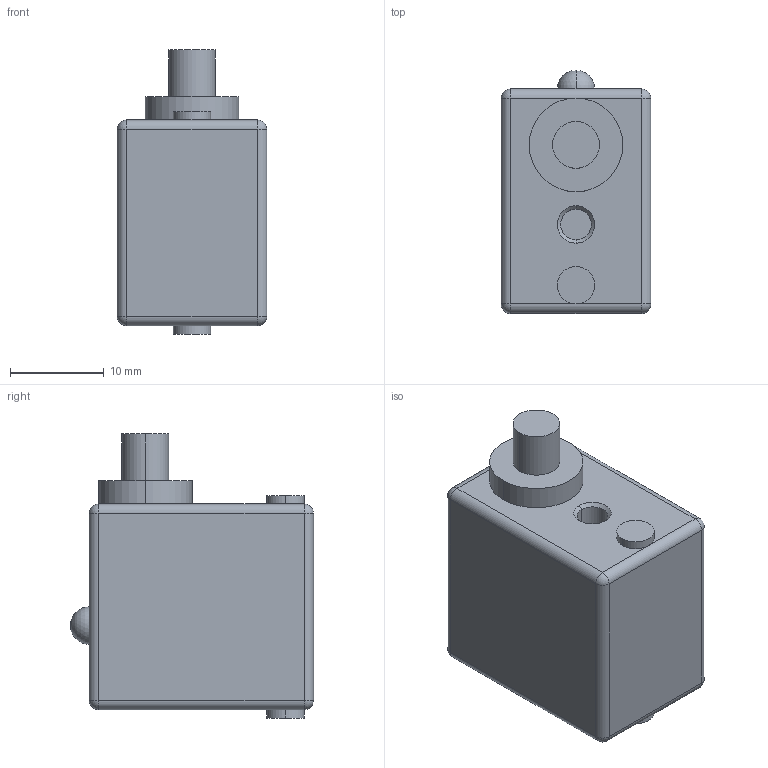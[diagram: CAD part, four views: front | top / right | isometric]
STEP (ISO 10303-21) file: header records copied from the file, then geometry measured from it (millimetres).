
FILE_DESCRIPTION((''),'2;1');
FILE_NAME('0830100317','2015-04-27T',('mla1hc'),(''),'PRO/ENGINEER BY PARAMETRIC TECHNOLOGY CORPORATION, 2011490','PRO/ENGINEER BY PARAMETRIC TECHNOLOGY CORPORATION, 2011490','');
FILE_SCHEMA(('AUTOMOTIVE_DESIGN_CC2 { 1 2 10303 214 -1 1 5 2 }'));
Length unit declared in the file: millimetre
Products named in the file (1): 0830100317
Bounding box: 16 x 26 x 30.4 mm (x, y, z)
Volume: 8626 mm3; surface area: 2733.2 mm2
Topology: 1 solids, 1 shells, 50 faces, 104 edges, 58 vertices
Faces by surface type: cylinder 24, plane 12, sphere 10, cone 4
Entity records: 1314 total; most frequent: DIRECTION 261, CARTESIAN_POINT 210, ORIENTED_EDGE 204, AXIS2_PLACEMENT_3D 109, EDGE_CURVE 102, CIRCLE 59, VERTEX_POINT 58, EDGE_LOOP 54
